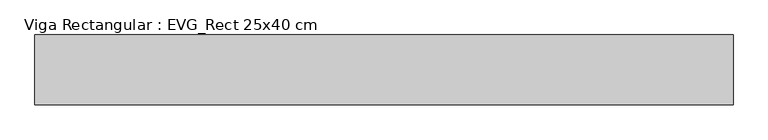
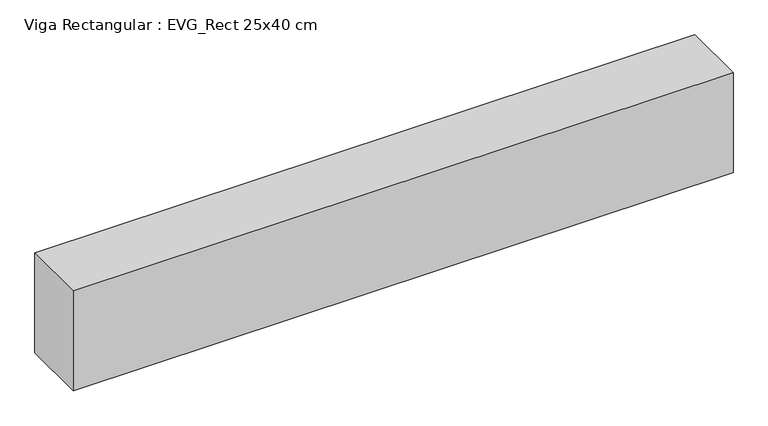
"""IFC4 building model written with IfcOpenShell, lengths in millimetres: beam geometry, Viga Rectangular : EVG_Rect 25x40 cm."""

from ifc_helpers import new_model, si_unit, frame, origin, place, context, project, spatial, polyline, outline, extrude, source, transform, mapped, element, save


def viga_rectangular_evg_rect_25x40_cm_90d5ee12(model_context):
    return source(origin(), model_context, "Body", "SweptSolid", [
        extrude(outline(polyline([(1400.0, 125.0), (1400.0, -125.0), (-1100.0, -125.0), (-1100.0, 125.0), (1400.0, 125.0)])), frame((0.0, 0.0, -400.0), z_axis=(0.0, 0.0, 1.0), x_axis=(1.0, 0.0, 0.0)), (0.0, 0.0, 1.0), 400.0),
    ])


if __name__ == "__main__":
    model = new_model("IFC4")
    model_context = context("Model", 3, world=origin())
    ifc_project = project(units=[si_unit("LENGTHUNIT", "METRE", prefix="MILLI")], contexts=[model_context])
    site = spatial("IfcSite", under=ifc_project)
    building = spatial("IfcBuilding", under=site)
    placement = place(None, origin())
    viga_rectangular_evg_rect_25x40_cm_shape = viga_rectangular_evg_rect_25x40_cm_90d5ee12(model_context)
    element("IfcBeam", 1, ObjectType="Viga Rectangular : EVG_Rect 25x40 cm", at=placement, inside=building, context=model_context, shape_type="MappedRepresentation", body=[
        mapped(viga_rectangular_evg_rect_25x40_cm_shape, transform((0.0, 0.0, 0.0), x_axis=(1.0, 0.0, 0.0), y_axis=(0.0, 1.0, 0.0), z_axis=(0.0, 0.0, 1.0))),
    ])
    save(model, "model.ifc")
